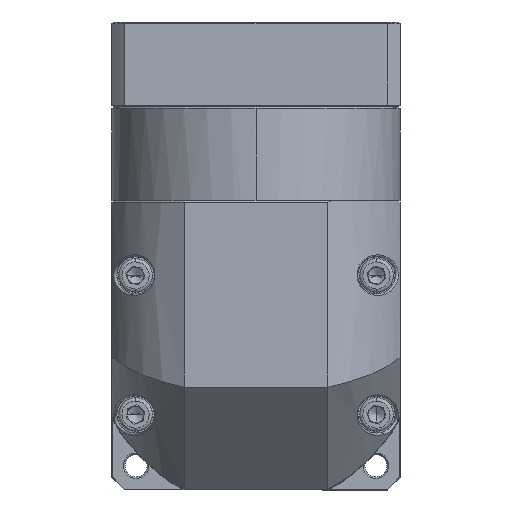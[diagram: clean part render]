
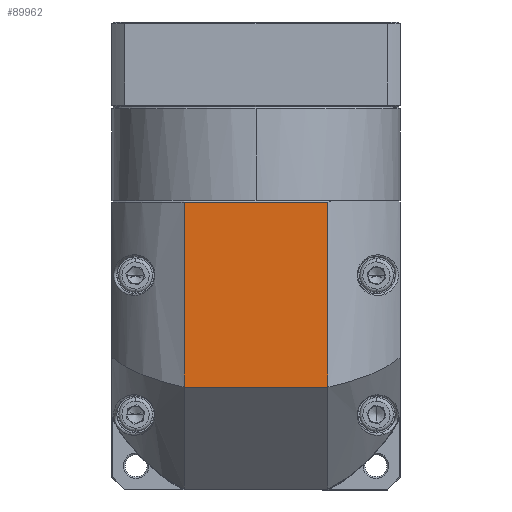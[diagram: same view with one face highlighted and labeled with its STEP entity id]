
A CAD part, top view. The second image highlights one B-rep face of the part: STEP entity #89962.
In plain terms, the highlighted planar face has unit normal (0, 0, 1).
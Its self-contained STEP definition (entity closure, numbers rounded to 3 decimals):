
#8115 = PLANE ( 'NONE',  #12314 ) ;
#12314 = AXIS2_PLACEMENT_3D ( 'NONE', #131729, #21135, #93216 ) ;
#15567 = ORIENTED_EDGE ( 'NONE', *, *, #33991, .F. ) ;
#15830 = VERTEX_POINT ( 'NONE', #81866 ) ;
#16490 = CARTESIAN_POINT ( 'NONE',  ( -45.475, 72.246, 50.811 ) ) ;
#21135 = DIRECTION ( 'NONE',  ( 0., 0., 1. ) ) ;
#22045 = VECTOR ( 'NONE', #109091, 1000. ) ;
#26839 = VERTEX_POINT ( 'NONE', #29006 ) ;
#29006 = CARTESIAN_POINT ( 'NONE',  ( -66.688, 17.746, 50.811 ) ) ;
#29700 = CARTESIAN_POINT ( 'NONE',  ( -24.262, 72.246, 50.811 ) ) ;
#29941 = FACE_OUTER_BOUND ( 'NONE', #33601, .T. ) ;
#30942 = EDGE_CURVE ( 'NONE', #63266, #95601, #78388, .T. ) ;
#31197 = DIRECTION ( 'NONE',  ( -1., 0., 0. ) ) ;
#31899 = CARTESIAN_POINT ( 'NONE',  ( -24.262, -27.754, 50.811 ) ) ;
#33601 = EDGE_LOOP ( 'NONE', ( #98861, #70372, #15567, #112433 ) ) ;
#33991 = EDGE_CURVE ( 'NONE', #63266, #15830, #114679, .T. ) ;
#60023 = VECTOR ( 'NONE', #84102, 1000. ) ;
#62733 = EDGE_CURVE ( 'NONE', #15830, #26839, #110772, .T. ) ;
#63266 = VERTEX_POINT ( 'NONE', #29700 ) ;
#67063 = EDGE_CURVE ( 'NONE', #26839, #95601, #69062, .T. ) ;
#69062 = LINE ( 'NONE', #109350, #104389 ) ;
#70372 = ORIENTED_EDGE ( 'NONE', *, *, #62733, .F. ) ;
#78388 = LINE ( 'NONE', #16490, #22045 ) ;
#81866 = CARTESIAN_POINT ( 'NONE',  ( -24.262, 17.746, 50.811 ) ) ;
#84102 = DIRECTION ( 'NONE',  ( 0., -1., 0. ) ) ;
#86098 = CARTESIAN_POINT ( 'NONE',  ( -66.688, 72.246, 50.811 ) ) ;
#89962 = ADVANCED_FACE ( 'NONE', ( #29941 ), #8115, .T. ) ;
#93216 = DIRECTION ( 'NONE',  ( 0., 1., 0. ) ) ;
#95601 = VERTEX_POINT ( 'NONE', #86098 ) ;
#98861 = ORIENTED_EDGE ( 'NONE', *, *, #67063, .F. ) ;
#104389 = VECTOR ( 'NONE', #129996, 1000. ) ;
#109091 = DIRECTION ( 'NONE',  ( -1., 0., 0. ) ) ;
#109350 = CARTESIAN_POINT ( 'NONE',  ( -66.688, -27.754, 50.811 ) ) ;
#110772 = LINE ( 'NONE', #112141, #125252 ) ;
#112141 = CARTESIAN_POINT ( 'NONE',  ( -45.475, 17.746, 50.811 ) ) ;
#112433 = ORIENTED_EDGE ( 'NONE', *, *, #30942, .T. ) ;
#114679 = LINE ( 'NONE', #31899, #60023 ) ;
#125252 = VECTOR ( 'NONE', #31197, 1000. ) ;
#129996 = DIRECTION ( 'NONE',  ( 0., 1., 0. ) ) ;
#131729 = CARTESIAN_POINT ( 'NONE',  ( -45.475, 30.246, 50.811 ) ) ;
